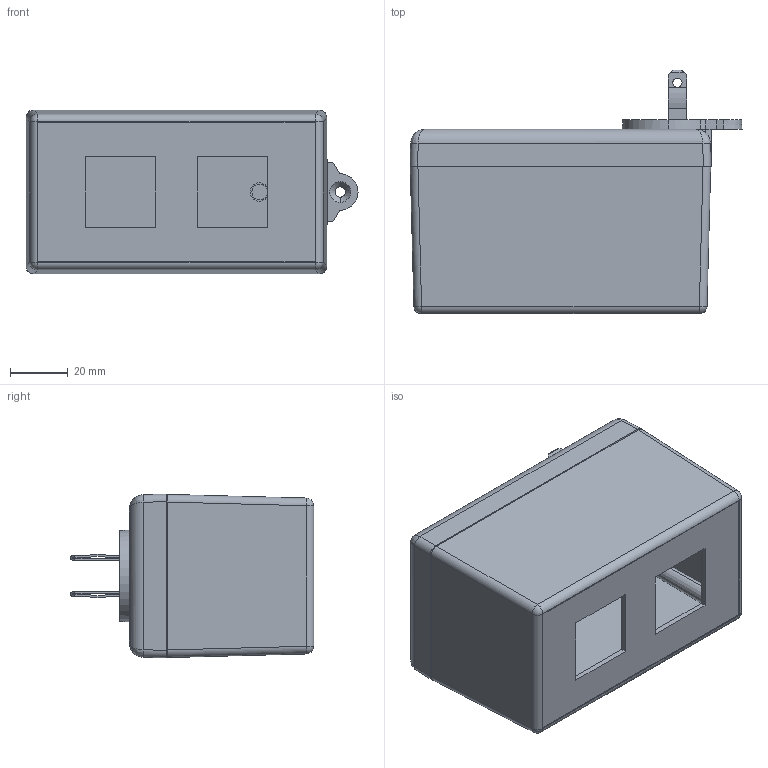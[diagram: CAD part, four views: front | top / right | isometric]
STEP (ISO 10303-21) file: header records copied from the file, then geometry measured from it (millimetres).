
FILE_DESCRIPTION (( 'STEP AP214' ), '1' );
FILE_NAME ('PM2425R22XWT.STEP', '2010-07-15T14:18:09', ( '' ), ( '' ), 'SwSTEP 2.0', 'SolidWorks 2010', '' );
FILE_SCHEMA (( 'AUTOMOTIVE_DESIGN' ));
Length unit declared in the file: inch
Products named in the file (8): TS-2420B AND PM2420_PM2420R2; B2405 ASS''Y_B24052XWT; MPB2405_MPB24052WT; BLADES; WELD DISC-PS-BK; SCREWS-HL1-BR; B2405-PCB; PM2425R22XWT
Assembly tree (11 placements, depth 3):
  PM2425R22XWT
    TS-2420B AND PM2420_PM2420R2
    B2405-PCB
    SCREWS-HL1-BR  x4
    B2405 ASS''Y_B24052XWT
      BLADES  x2
      WELD DISC-PS-BK
      MPB2405_MPB24052WT
Bounding box: 115.34 x 84.55 x 56.95 mm (x, y, z)
Volume: 85391 mm3; surface area: 80572.3 mm2
Topology: 10 solids, 10 shells, 901 faces, 2510 edges, 1638 vertices
Faces by surface type: cylinder 488, plane 287, cone 82, bspline 28, sphere 12, torus 4
Entity records: 18885 total; most frequent: CARTESIAN_POINT 6221, ORIENTED_EDGE 2734, DIRECTION 2437, EDGE_CURVE 1367, VERTEX_POINT 888, AXIS2_PLACEMENT_3D 851, LINE 735, VECTOR 735
